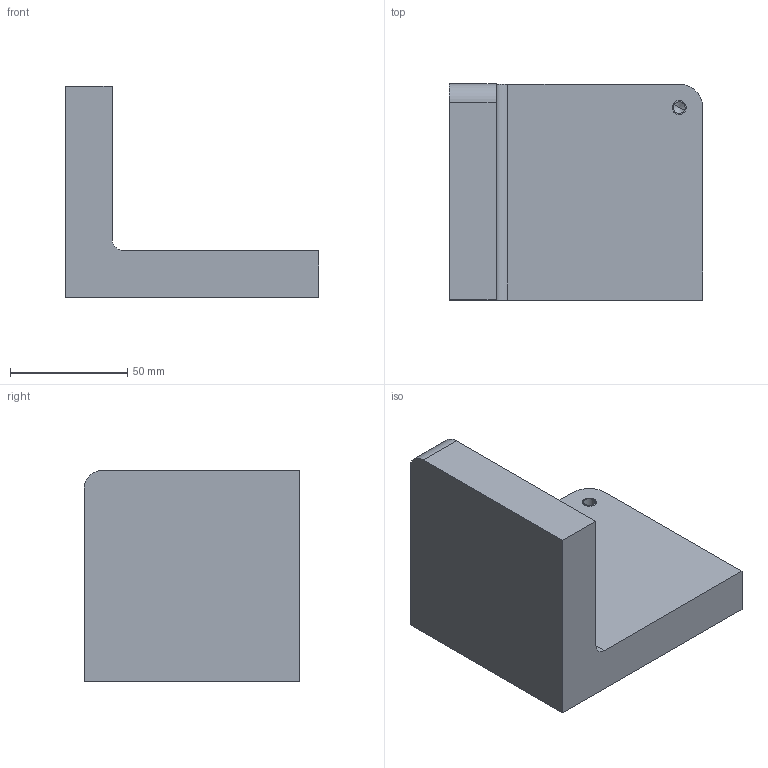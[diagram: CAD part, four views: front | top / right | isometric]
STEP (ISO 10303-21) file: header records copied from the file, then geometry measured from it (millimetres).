
FILE_DESCRIPTION(('CATIA V5 STEP Exchange'),'2;1');
FILE_NAME('C:\_Andres\UNIVERSIDAD\IQS\ASIGNATURAS\DAO\EXF\EXF-16172c\2inicio\dAndrea_Torrejon_Ej01_v8.stp','2017-03-05T15:11:05+00:00',('none'),('none'),'CATIA Version 5-6 Release 2014 SP1 HF18','CATIA V5 STEP AP203','none');
FILE_SCHEMA(('CONFIG_CONTROL_DESIGN'));
Length unit declared in the file: millimetre
Products named in the file (1): dAndrea_Torrejon_Ej01_v8
Bounding box: 108 x 92 x 90 mm (x, y, z)
Volume: 326996.9 mm3; surface area: 43616.7 mm2
Topology: 1 solids, 2 shells, 17 faces, 43 edges, 27 vertices
Faces by surface type: plane 8, cylinder 7, cone 2
Entity records: 513 total; most frequent: CARTESIAN_POINT 83, ORIENTED_EDGE 78, DIRECTION 69, EDGE_CURVE 41, AXIS2_PLACEMENT_3D 29, VECTOR 27, LINE 27, VERTEX_POINT 27
